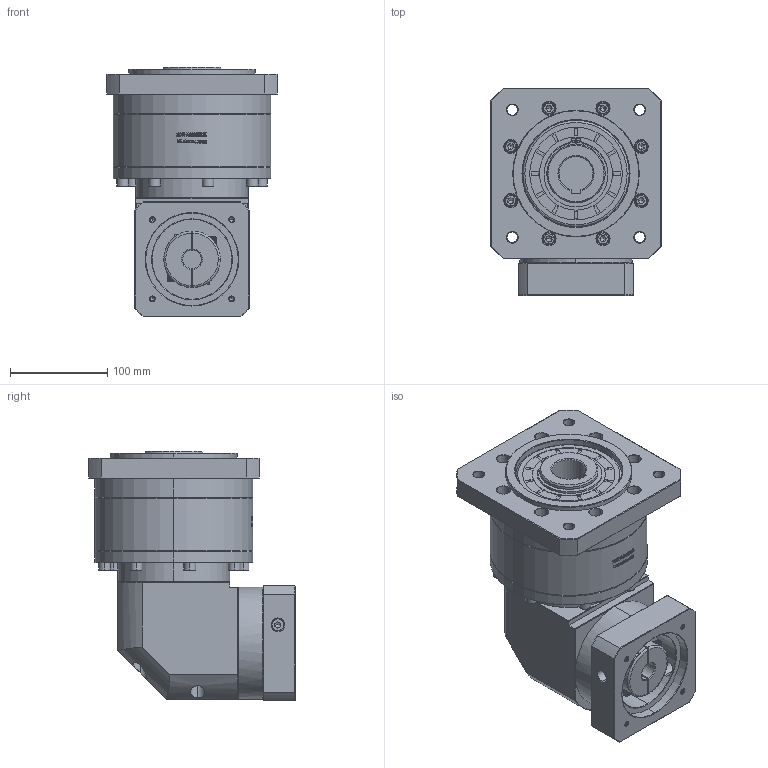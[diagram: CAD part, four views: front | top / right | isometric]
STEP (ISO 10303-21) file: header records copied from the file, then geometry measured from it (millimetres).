
FILE_DESCRIPTION (( 'STEP AP214' ), '1' );
FILE_NAME ('ZFR160A-K35-L2-19-95-115-M6.step', '2023-03-25T01:58:08', ( '' ), ( '' ), 'SwSTEP 2.0', 'SolidWorks 2016', '' );
FILE_SCHEMA (( 'AUTOMOTIVE_DESIGN' ));
Length unit declared in the file: millimetre
Products named in the file (1): ZFR160A-K35-L2-19-95-115-M6
Bounding box: 175 x 212.4 x 256.2 mm (x, y, z)
Volume: 4565364.9 mm3; surface area: 325292.2 mm2
Topology: 6 solids, 6 shells, 2712 faces, 7089 edges, 4548 vertices
Faces by surface type: plane 1365, bspline 494, cylinder 444, cone 365, torus 44
Entity records: 144066 total; most frequent: CARTESIAN_POINT 51631, ORIENTED_EDGE 14074, DIRECTION 11168, EDGE_CURVE 7037, VERTEX_POINT 4548, LINE 4424, VECTOR 4424, AXIS2_PLACEMENT_3D 3372
